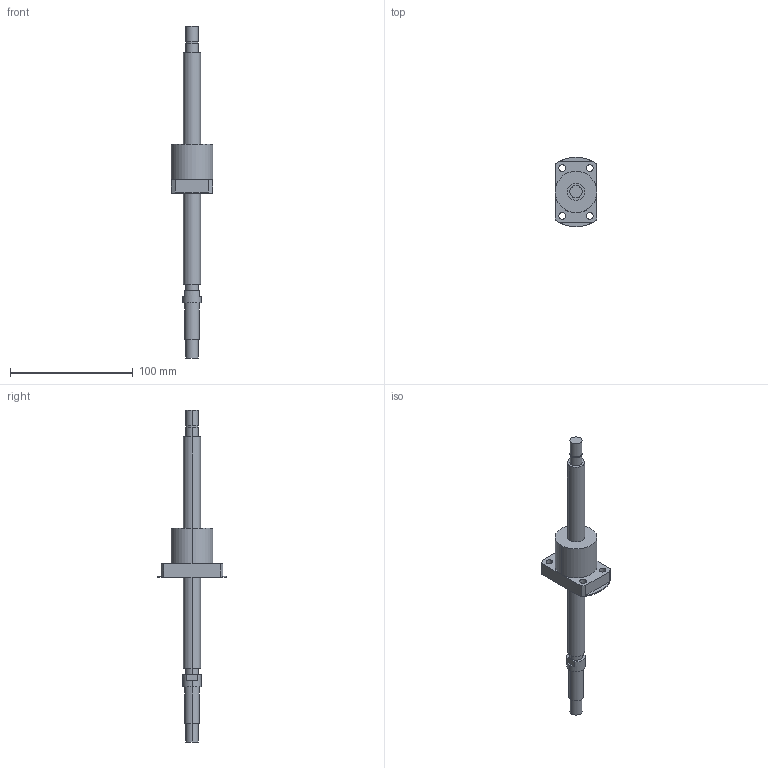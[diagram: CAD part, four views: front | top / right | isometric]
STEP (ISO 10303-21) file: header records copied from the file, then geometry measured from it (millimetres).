
FILE_DESCRIPTION((''),'2;1');
FILE_NAME('R14-5B1-FSW-189-271','2008-03-28T',('mahdi'),(''),'PRO/ENGINEER BY PARAMETRIC TECHNOLOGY CORPORATION, 2005070','PRO/ENGINEER BY PARAMETRIC TECHNOLOGY CORPORATION, 2005070','');
FILE_SCHEMA(('CONFIG_CONTROL_DESIGN'));
Length unit declared in the file: millimetre
Products named in the file (1): R14-5B1-FSW-189-271
Bounding box: 34 x 57 x 271 mm (x, y, z)
Volume: 74266.5 mm3; surface area: 19028.1 mm2
Topology: 1 solids, 1 shells, 65 faces, 146 edges, 96 vertices
Faces by surface type: cylinder 38, plane 27
Entity records: 1906 total; most frequent: DIRECTION 360, CARTESIAN_POINT 307, ORIENTED_EDGE 292, AXIS2_PLACEMENT_3D 149, EDGE_CURVE 146, VERTEX_POINT 96, EDGE_LOOP 86, CIRCLE 84
